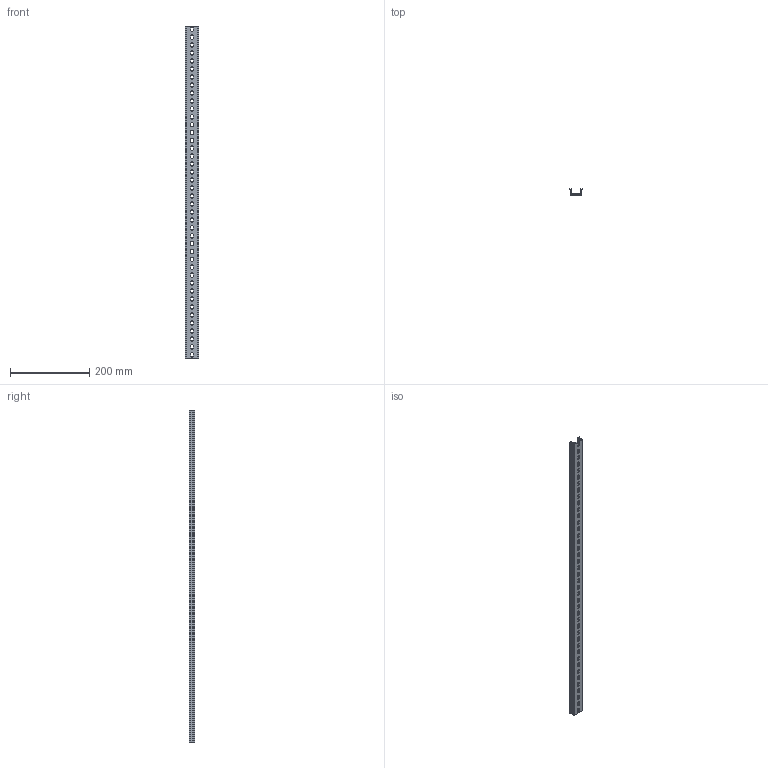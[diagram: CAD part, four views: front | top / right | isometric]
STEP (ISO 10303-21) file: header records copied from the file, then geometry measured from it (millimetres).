
FILE_DESCRIPTION(/* description */ (''),/* implementation_level */ '2;1');
FILE_NAME(/* name */ '22650-(TKB KD-42)HP 3D.stp',/* time_stamp */ '2024-12-05T14:24:28+09:00',/* author */ ('usercadg104'),/* organization */ (''),/* preprocessor_version */ 'ST-DEVELOPER v19.2',/* originating_system */ 'Autodesk Inventor 2023',/* authorisation */ '');
FILE_SCHEMA (('CONFIG_CONTROL_DESIGN'));
Length unit declared in the file: millimetre
Products named in the file (1): TKB KD-3(林)
Bounding box: 35 x 15 x 837 mm (x, y, z)
Volume: 97928.9 mm3; surface area: 113065.4 mm2
Topology: 1 solids, 1 shells, 208 faces, 618 edges, 412 vertices
Faces by surface type: plane 120, cylinder 88
Entity records: 7209 total; most frequent: CARTESIAN_POINT 1239, ORIENTED_EDGE 1236, DIRECTION 1212, EDGE_CURVE 618, LINE 442, VECTOR 442, VERTEX_POINT 412, AXIS2_PLACEMENT_3D 385
